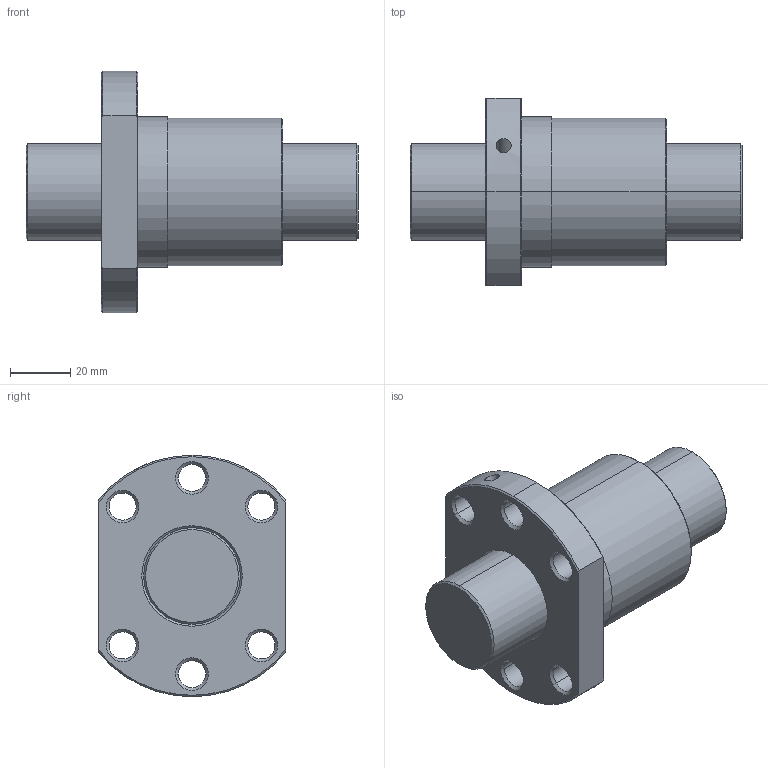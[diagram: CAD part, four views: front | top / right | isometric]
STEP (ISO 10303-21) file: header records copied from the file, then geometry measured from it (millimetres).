
FILE_DESCRIPTION(('no description'),'unknown implementation level');
FILE_NAME('R32_05T5_DEB_110_110_0_023_28.stp',' ',('HIWIN GmbH'),('CADClick - KiM GmbH - www.kimweb.de'),'unknown preprocess','ACIS','unknown authorization');
FILE_SCHEMA(('CONFIG_CONTROL_DESIGN'));
Length unit declared in the file: millimetre
Products named in the file (2): 1; 2
Bounding box: 110 x 62 x 80 mm (x, y, z)
Volume: 179200 mm3; surface area: 37303.4 mm2
Topology: 2 solids, 2 shells, 78 faces, 176 edges, 103 vertices
Faces by surface type: cone 44, cylinder 26, plane 8
Entity records: 2329 total; most frequent: CARTESIAN_POINT 440, DIRECTION 416, ORIENTED_EDGE 348, EDGE_CURVE 174, AXIS2_PLACEMENT_3D 172, VERTEX_POINT 103, EDGE_LOOP 95, CIRCLE 92
